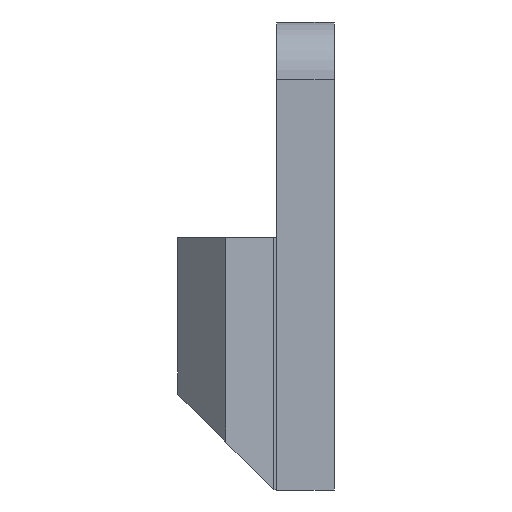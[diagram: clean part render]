
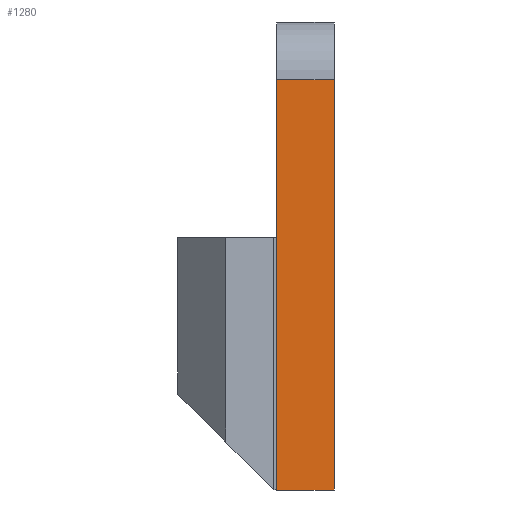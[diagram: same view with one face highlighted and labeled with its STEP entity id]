
A CAD part, front view. The second image highlights one B-rep face of the part: STEP entity #1280.
In plain terms, the highlighted planar face has unit normal (0, -1, 0).
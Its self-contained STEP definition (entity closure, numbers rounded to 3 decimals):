
#20=PLANE('',#1370);
#76=FACE_OUTER_BOUND('',#148,.T.);
#148=EDGE_LOOP('',(#891,#892,#893,#894));
#227=LINE('',#1867,#381);
#228=LINE('',#1870,#382);
#229=LINE('',#1872,#383);
#230=LINE('',#1873,#384);
#381=VECTOR('',#1493,10.);
#382=VECTOR('',#1496,10.);
#383=VECTOR('',#1497,10.);
#384=VECTOR('',#1498,10.);
#571=VERTEX_POINT('',#1860);
#574=VERTEX_POINT('',#1865);
#575=VERTEX_POINT('',#1869);
#576=VERTEX_POINT('',#1871);
#699=EDGE_CURVE('',#574,#571,#227,.T.);
#700=EDGE_CURVE('',#575,#574,#228,.T.);
#701=EDGE_CURVE('',#576,#575,#229,.F.);
#702=EDGE_CURVE('',#571,#576,#230,.T.);
#891=ORIENTED_EDGE('',*,*,#699,.F.);
#892=ORIENTED_EDGE('',*,*,#700,.F.);
#893=ORIENTED_EDGE('',*,*,#701,.F.);
#894=ORIENTED_EDGE('',*,*,#702,.F.);
#1280=ADVANCED_FACE('',(#76),#20,.F.);
#1370=AXIS2_PLACEMENT_3D('',#1868,#1494,#1495);
#1493=DIRECTION('',(1.,0.,0.));
#1494=DIRECTION('center_axis',(0.,1.,0.));
#1495=DIRECTION('ref_axis',(0.,0.,1.));
#1496=DIRECTION('',(0.,0.,1.));
#1497=DIRECTION('',(1.,0.,0.));
#1498=DIRECTION('',(0.,0.,-1.));
#1860=CARTESIAN_POINT('',(99.15,-20.8,-90.76));
#1865=CARTESIAN_POINT('',(96.15,-20.8,-90.76));
#1867=CARTESIAN_POINT('',(96.15,-20.8,-90.76));
#1868=CARTESIAN_POINT('Origin',(96.15,-20.8,-87.76));
#1869=CARTESIAN_POINT('',(96.15,-20.8,-112.15));
#1870=CARTESIAN_POINT('',(96.15,-20.8,-93.851));
#1871=CARTESIAN_POINT('',(99.15,-20.8,-112.15));
#1872=CARTESIAN_POINT('',(96.15,-20.8,-112.15));
#1873=CARTESIAN_POINT('',(99.15,-20.8,-93.851));
